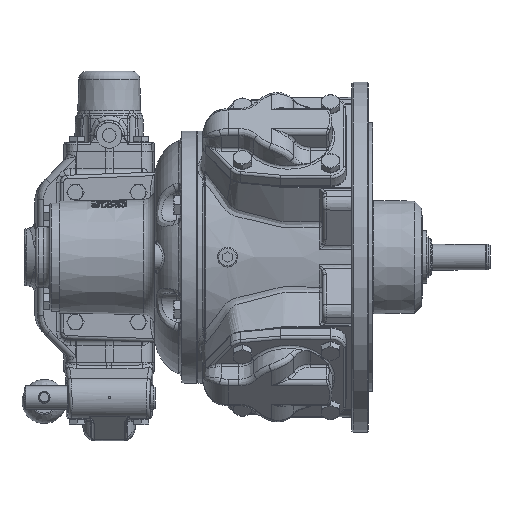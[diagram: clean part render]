
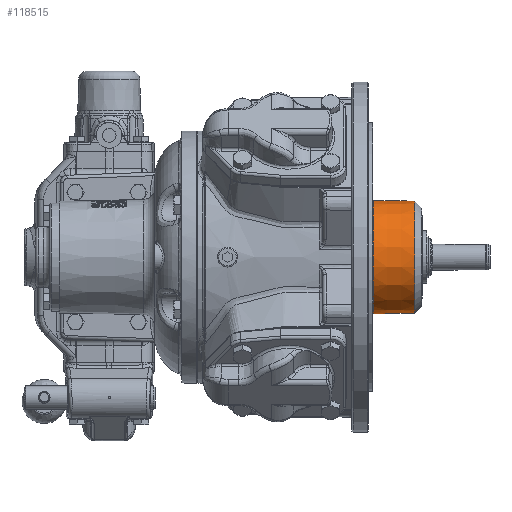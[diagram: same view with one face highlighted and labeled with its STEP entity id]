
A CAD part, front view. The second image highlights one B-rep face of the part: STEP entity #118515.
In plain terms, the highlighted conical face has half-angle 1 degrees and reference radius 48.622 mm.
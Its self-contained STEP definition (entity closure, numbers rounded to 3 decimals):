
#976 = CIRCLE ( 'NONE', #106881, 48. ) ;
#2316 = EDGE_LOOP ( 'NONE', ( #57731 ) ) ;
#3523 = CONICAL_SURFACE ( 'NONE', #106356, 48.622, 0.017 ) ;
#4164 = AXIS2_PLACEMENT_3D ( 'NONE', #7056, #66713, #124429 ) ;
#7056 = CARTESIAN_POINT ( 'NONE',  ( 72.36, 0., 0. ) ) ;
#16783 = FACE_OUTER_BOUND ( 'NONE', #2316, .T. ) ;
#34338 = CIRCLE ( 'NONE', #4164, 48.622 ) ;
#44236 = FACE_BOUND ( 'NONE', #129022, .T. ) ;
#49417 = DIRECTION ( 'NONE',  ( 1., 0., 0. ) ) ;
#57731 = ORIENTED_EDGE ( 'NONE', *, *, #132607, .T. ) ;
#61768 = CARTESIAN_POINT ( 'NONE',  ( 108., 0., -48. ) ) ;
#66713 = DIRECTION ( 'NONE',  ( 1., 0., 0. ) ) ;
#102959 = DIRECTION ( 'NONE',  ( 0., 0., 1. ) ) ;
#104345 = DIRECTION ( 'NONE',  ( 0., 0., -1. ) ) ;
#106260 = VERTEX_POINT ( 'NONE', #61768 ) ;
#106356 = AXIS2_PLACEMENT_3D ( 'NONE', #130399, #132250, #102959 ) ;
#106881 = AXIS2_PLACEMENT_3D ( 'NONE', #118558, #49417, #104345 ) ;
#118515 = ADVANCED_FACE ( 'NONE', ( #44236, #16783 ), #3523, .T. ) ;
#118558 = CARTESIAN_POINT ( 'NONE',  ( 108., 0., 0. ) ) ;
#121253 = EDGE_CURVE ( 'NONE', #106260, #106260, #976, .T. ) ;
#124429 = DIRECTION ( 'NONE',  ( 0., 0., -1. ) ) ;
#129022 = EDGE_LOOP ( 'NONE', ( #187362 ) ) ;
#130399 = CARTESIAN_POINT ( 'NONE',  ( 72.36, 0., 0. ) ) ;
#132250 = DIRECTION ( 'NONE',  ( -1., 0., 0. ) ) ;
#132607 = EDGE_CURVE ( 'NONE', #180089, #180089, #34338, .T. ) ;
#135533 = CARTESIAN_POINT ( 'NONE',  ( 72.36, 0., -48.622 ) ) ;
#180089 = VERTEX_POINT ( 'NONE', #135533 ) ;
#187362 = ORIENTED_EDGE ( 'NONE', *, *, #121253, .F. ) ;
